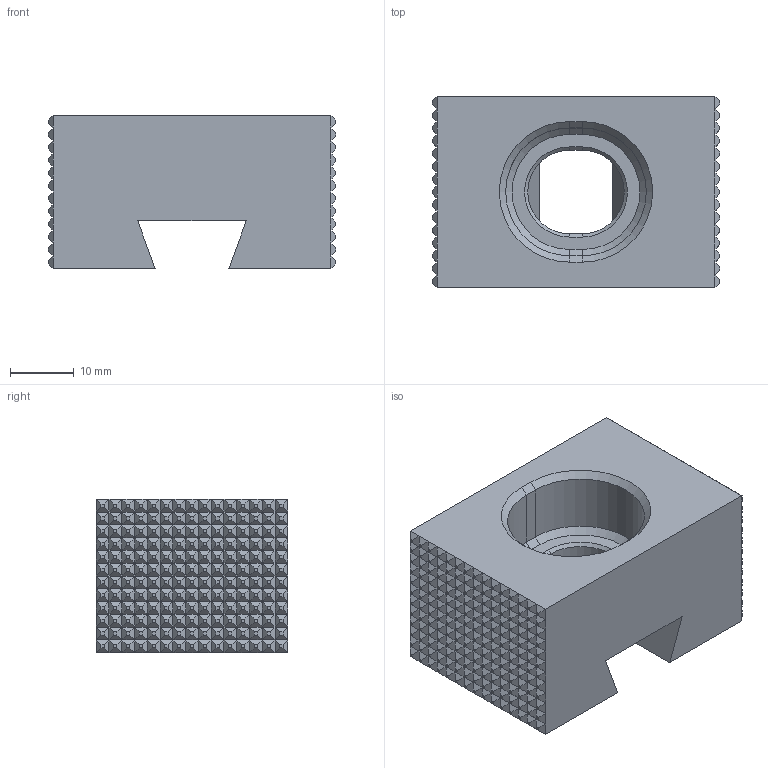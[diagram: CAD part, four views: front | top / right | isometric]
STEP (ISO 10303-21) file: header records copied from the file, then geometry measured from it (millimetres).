
FILE_DESCRIPTION((''),'2;1');
FILE_NAME('FG_WH_WEDCL_00SJ2NP001','2026-06-05T09:36:07',('Admin'),(''),'CREO PARAMETRIC BY PTC INC, 2025010','CREO PARAMETRIC BY PTC INC, 2025010','');
FILE_SCHEMA(('CONFIG_CONTROL_DESIGN'));
Length unit declared in the file: metre
Products named in the file (1): FG_WH_WEDCL_00SJ2NP001
Bounding box: 45 x 30 x 24 mm (x, y, z)
Volume: 23790.1 mm3; surface area: 7695.9 mm2
Topology: 1 solids, 1 shells, 1829 faces, 3726 edges, 1900 vertices
Faces by surface type: plane 1819, cone 6, cylinder 4
Entity records: 44588 total; most frequent: CARTESIAN_POINT 7455, ORIENTED_EDGE 7452, DIRECTION 7406, EDGE_CURVE 3726, VECTOR 3704, LINE 3704, VERTEX_POINT 1900, AXIS2_PLACEMENT_3D 1851
